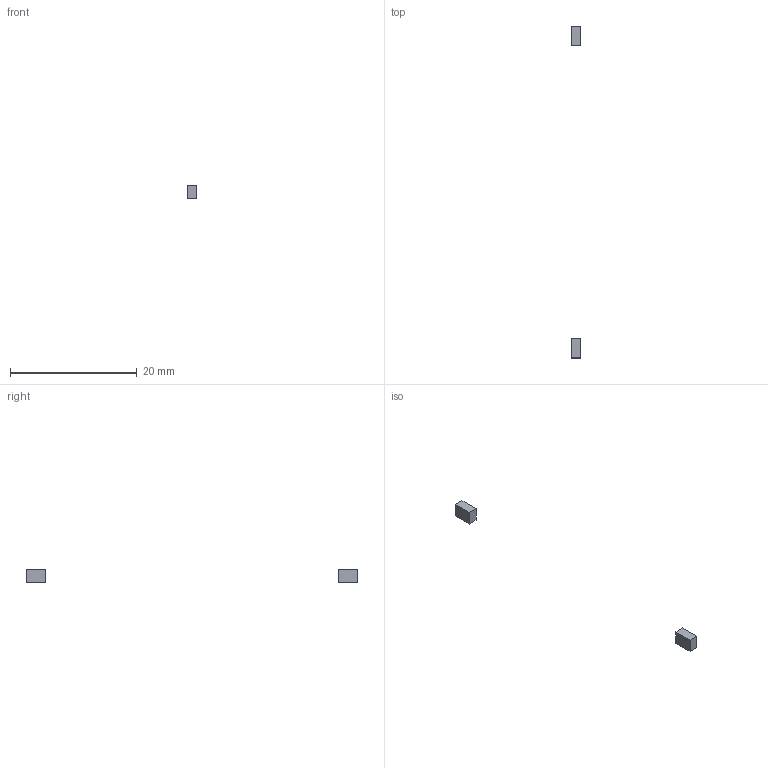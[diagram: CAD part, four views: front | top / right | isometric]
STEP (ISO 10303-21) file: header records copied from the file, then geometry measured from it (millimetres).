
FILE_DESCRIPTION(('Open CASCADE Model'),'2;1');
FILE_NAME('Open CASCADE Shape Model','2026-09-15T14:01:03',('Author'),( 'Open CASCADE'),'Open CASCADE STEP processor 7.7','Open CASCADE 7.7' ,'Unknown');
FILE_SCHEMA(('AUTOMOTIVE_DESIGN { 1 0 10303 214 1 1 1 1 }'));
Length unit declared in the file: millimetre
Products named in the file (3): ASSEMBLY; SOLID
Assembly tree (2 placements, depth 2):
  ASSEMBLY
    SOLID
    SOLID
Bounding box: 1.5 x 52.4 x 2.2 mm (x, y, z)
Volume: 20.8 mm3; surface area: 59.8 mm2
Topology: 2 solids, 2 shells, 12 faces, 24 edges, 16 vertices
Faces by surface type: plane 12
Entity records: 664 total; most frequent: CARTESIAN_POINT 103, DIRECTION 102, LINE 72, VECTOR 72, ORIENTED_EDGE 48, PCURVE 48, DEFINITIONAL_REPRESENTATION 48, EDGE_CURVE 24
